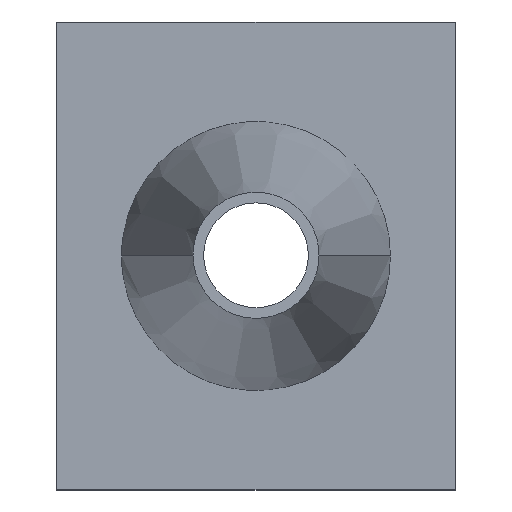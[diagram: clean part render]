
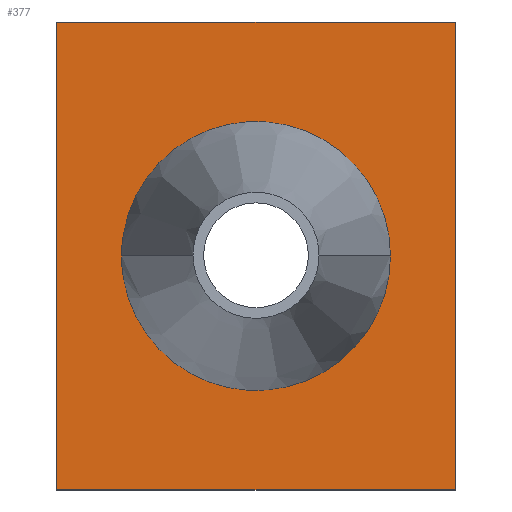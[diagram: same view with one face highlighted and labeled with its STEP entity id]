
A CAD part, top view. The second image highlights one B-rep face of the part: STEP entity #377.
In plain terms, the highlighted planar face has unit normal (0, 0, 1).
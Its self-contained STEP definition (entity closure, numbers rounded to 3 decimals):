
#167=CARTESIAN_POINT('Vertex',(0.,134.,3.)) ;
#174=CARTESIAN_POINT('Vertex',(0.,0.,3.)) ;
#177=CARTESIAN_POINT('Line Origine',(0.,67.,3.)) ;
#198=CARTESIAN_POINT('Vertex',(114.,134.,3.)) ;
#201=CARTESIAN_POINT('Line Origine',(57.,134.,3.)) ;
#222=CARTESIAN_POINT('Vertex',(114.,0.,3.)) ;
#225=CARTESIAN_POINT('Line Origine',(114.,67.,3.)) ;
#242=CARTESIAN_POINT('Line Origine',(57.,0.,3.)) ;
#324=CARTESIAN_POINT('Axis2P3D Location',(0.,0.,3.)) ;
#336=CARTESIAN_POINT('Control Point',(95.5,67.,3.)) ;
#337=CARTESIAN_POINT('Control Point',(95.5,73.095,3.)) ;
#338=CARTESIAN_POINT('Control Point',(94.294,79.189,3.)) ;
#339=CARTESIAN_POINT('Control Point',(91.881,84.966,3.)) ;
#340=CARTESIAN_POINT('Control Point',(84.903,95.249,3.)) ;
#341=CARTESIAN_POINT('Control Point',(74.535,102.099,3.)) ;
#342=CARTESIAN_POINT('Control Point',(68.729,104.442,3.)) ;
#343=CARTESIAN_POINT('Control Point',(56.509,106.703,3.)) ;
#344=CARTESIAN_POINT('Control Point',(44.348,104.14,3.)) ;
#345=CARTESIAN_POINT('Control Point',(38.601,101.655,3.)) ;
#346=CARTESIAN_POINT('Control Point',(28.566,94.661,3.)) ;
#347=CARTESIAN_POINT('Control Point',(21.896,84.423,3.)) ;
#348=CARTESIAN_POINT('Control Point',(19.632,78.808,3.)) ;
#349=CARTESIAN_POINT('Control Point',(18.5,72.904,3.)) ;
#350=CARTESIAN_POINT('Control Point',(18.5,67.,3.)) ;
#351=CARTESIAN_POINT('Vertex',(95.5,67.,3.)) ;
#353=CARTESIAN_POINT('Vertex',(18.5,67.,3.)) ;
#357=CARTESIAN_POINT('Control Point',(95.5,67.,3.)) ;
#358=CARTESIAN_POINT('Control Point',(95.5,60.905,3.)) ;
#359=CARTESIAN_POINT('Control Point',(94.294,54.811,3.)) ;
#360=CARTESIAN_POINT('Control Point',(91.881,49.034,3.)) ;
#361=CARTESIAN_POINT('Control Point',(84.903,38.751,3.)) ;
#362=CARTESIAN_POINT('Control Point',(74.535,31.901,3.)) ;
#363=CARTESIAN_POINT('Control Point',(68.729,29.558,3.)) ;
#364=CARTESIAN_POINT('Control Point',(56.509,27.297,3.)) ;
#365=CARTESIAN_POINT('Control Point',(44.348,29.86,3.)) ;
#366=CARTESIAN_POINT('Control Point',(38.601,32.345,3.)) ;
#367=CARTESIAN_POINT('Control Point',(28.566,39.339,3.)) ;
#368=CARTESIAN_POINT('Control Point',(21.896,49.577,3.)) ;
#369=CARTESIAN_POINT('Control Point',(19.632,55.192,3.)) ;
#370=CARTESIAN_POINT('Control Point',(18.5,61.096,3.)) ;
#371=CARTESIAN_POINT('Control Point',(18.5,67.,3.)) ;
#178=DIRECTION('Vector Direction',(0.,1.,0.)) ;
#202=DIRECTION('Vector Direction',(-1.,0.,0.)) ;
#226=DIRECTION('Vector Direction',(0.,1.,0.)) ;
#243=DIRECTION('Vector Direction',(1.,0.,0.)) ;
#325=DIRECTION('Axis2P3D Direction',(0.,0.,1.)) ;
#326=DIRECTION('Axis2P3D XDirection',(1.,0.,0.)) ;
#327=AXIS2_PLACEMENT_3D('Plane Axis2P3D',#324,#325,#326) ;
#330=ORIENTED_EDGE('',*,*,#181,.F.) ;
#331=ORIENTED_EDGE('',*,*,#246,.T.) ;
#332=ORIENTED_EDGE('',*,*,#229,.T.) ;
#333=ORIENTED_EDGE('',*,*,#205,.T.) ;
#374=ORIENTED_EDGE('',*,*,#355,.F.) ;
#375=ORIENTED_EDGE('',*,*,#372,.T.) ;
#376=FACE_BOUND('',#373,.T.) ;
#179=VECTOR('Line Direction',#178,1.) ;
#203=VECTOR('Line Direction',#202,1.) ;
#227=VECTOR('Line Direction',#226,1.) ;
#244=VECTOR('Line Direction',#243,1.) ;
#377=ADVANCED_FACE('PartBody',(#334,#376),#328,.T.) ;
#335=B_SPLINE_CURVE_WITH_KNOTS('',5,(#336,#337,#338,#339,#340,#341,#342,#343,#344,#345,#346,#347,#348,#349,#350),.UNSPECIFIED.,.F.,.U.,(6,3,3,3,6),(0.,32.705,65.413,98.122,129.805),.UNSPECIFIED.) ;
#356=B_SPLINE_CURVE_WITH_KNOTS('',5,(#357,#358,#359,#360,#361,#362,#363,#364,#365,#366,#367,#368,#369,#370,#371),.UNSPECIFIED.,.F.,.U.,(6,3,3,3,6),(0.,32.705,65.413,98.122,129.805),.UNSPECIFIED.) ;
#181=EDGE_CURVE('',#175,#168,#180,.T.) ;
#205=EDGE_CURVE('',#199,#168,#204,.T.) ;
#229=EDGE_CURVE('',#223,#199,#228,.T.) ;
#246=EDGE_CURVE('',#175,#223,#245,.T.) ;
#355=EDGE_CURVE('',#352,#354,#335,.T.) ;
#372=EDGE_CURVE('',#352,#354,#356,.T.) ;
#329=EDGE_LOOP('',(#330,#331,#332,#333)) ;
#373=EDGE_LOOP('',(#374,#375)) ;
#334=FACE_OUTER_BOUND('',#329,.T.) ;
#180=LINE('Line',#177,#179) ;
#204=LINE('Line',#201,#203) ;
#228=LINE('Line',#225,#227) ;
#245=LINE('Line',#242,#244) ;
#328=PLANE('',#327) ;
#168=VERTEX_POINT('',#167) ;
#175=VERTEX_POINT('',#174) ;
#199=VERTEX_POINT('',#198) ;
#223=VERTEX_POINT('',#222) ;
#352=VERTEX_POINT('',#351) ;
#354=VERTEX_POINT('',#353) ;
